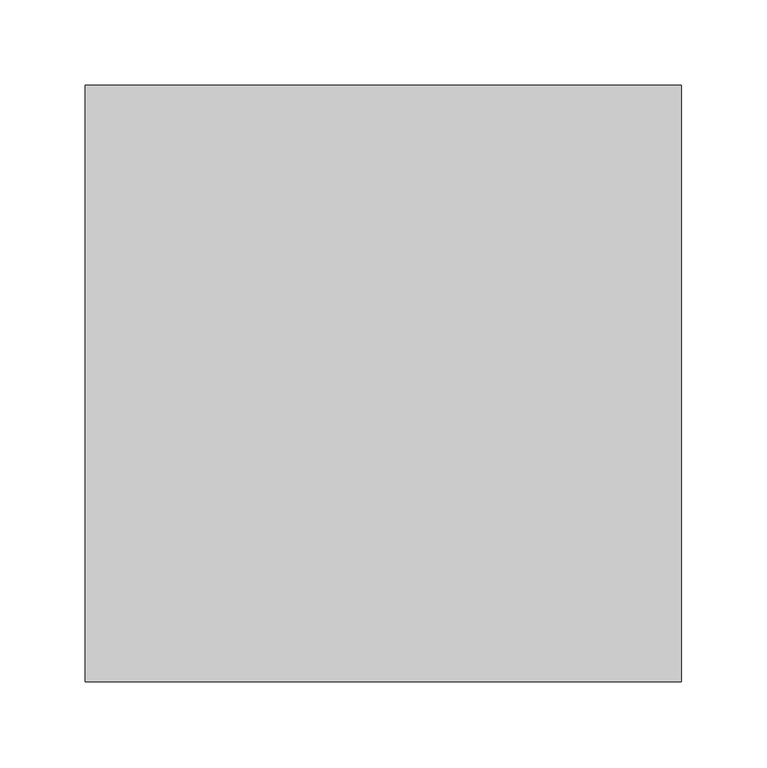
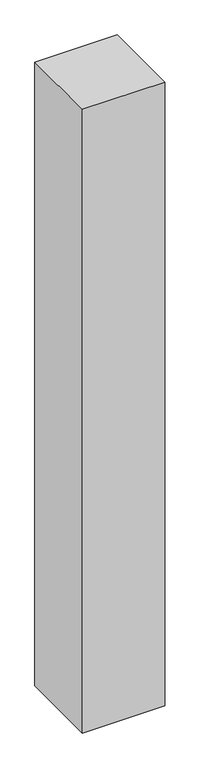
"""IFC4 building model written with IfcOpenShell, lengths in millimetres: column geometry, 矩形柱 : 350立柱."""

from ifc_helpers import new_model, si_unit, origin, origin_with_axes, place, context, project, spatial, polyline, outline, extrude, source, transform, mapped, element, save


def column_69935251(model_context):
    return source(origin(), model_context, "Body", "SweptSolid", [
        extrude(outline(polyline([(175.0, 175.0), (175.0, -175.0), (-175.0, -175.0), (-175.0, 175.0), (175.0, 175.0)])), origin_with_axes(), (0.0, 0.0, 1.0), 2800.0),
    ])


if __name__ == "__main__":
    model = new_model("IFC4")
    model_context = context("Model", 3, world=origin())
    ifc_project = project(units=[si_unit("LENGTHUNIT", "METRE", prefix="MILLI")], contexts=[model_context])
    site = spatial("IfcSite", under=ifc_project)
    building = spatial("IfcBuilding", under=site)
    placement = place(None, origin())
    column_shape = column_69935251(model_context)
    element("IfcColumn", 1, ObjectType="矩形柱 : 350立柱", at=placement, inside=building, context=model_context, shape_type="MappedRepresentation", body=[
        mapped(column_shape, transform((0.0, 0.0, 0.0), x_axis=(1.0, 0.0, 0.0), y_axis=(0.0, 1.0, 0.0), z_axis=(0.0, 0.0, 1.0))),
    ])
    save(model, "model.ifc")
